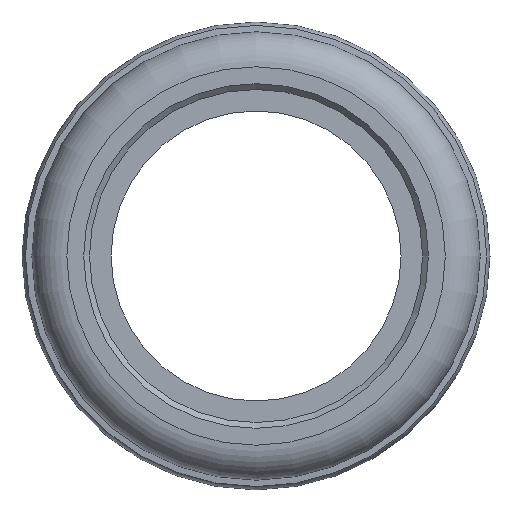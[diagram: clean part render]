
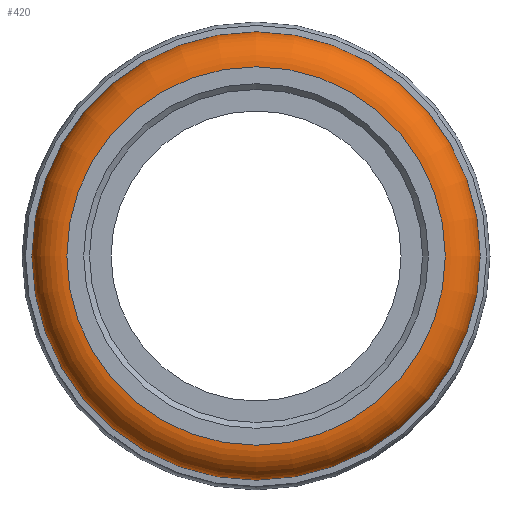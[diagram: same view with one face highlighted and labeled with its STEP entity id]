
A CAD part, left-side view. The second image highlights one B-rep face of the part: STEP entity #420.
In plain terms, the highlighted toroidal (fillet/blend) face has major radius 32.5 mm and minor radius 6 mm.
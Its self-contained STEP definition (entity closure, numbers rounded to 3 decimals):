
#45=FACE_BOUND($,#120,.T.);
#85=FACE_OUTER_BOUND($,#119,.T.);
#119=EDGE_LOOP($,(#304));
#120=EDGE_LOOP($,(#305));
#193=CIRCLE($,#461,38.5);
#194=CIRCLE($,#462,32.5);
#230=VERTEX_POINT($,#686);
#231=VERTEX_POINT($,#688);
#267=EDGE_CURVE($,#230,#230,#193,.T.);
#268=EDGE_CURVE($,#231,#231,#194,.T.);
#304=ORIENTED_EDGE($,*,*,#267,.F.);
#305=ORIENTED_EDGE($,*,*,#268,.T.);
#378=TOROIDAL_SURFACE($,#460,32.5,6.);
#420=ADVANCED_FACE($,(#85,#45),#378,.T.);
#460=AXIS2_PLACEMENT_3D($,#685,#536,#537);
#461=AXIS2_PLACEMENT_3D($,#687,#538,#539);
#462=AXIS2_PLACEMENT_3D($,#689,#540,#541);
#536=DIRECTION('center_axis',(1.,0.,0.));
#537=DIRECTION('ref_axis',(0.,0.,-1.));
#538=DIRECTION('center_axis',(1.,0.,0.));
#539=DIRECTION('ref_axis',(0.,1.,0.));
#540=DIRECTION('center_axis',(1.,0.,0.));
#541=DIRECTION('ref_axis',(0.,1.,0.));
#685=CARTESIAN_POINT('Origin',(6.,0.,0.));
#686=CARTESIAN_POINT('',(6.,38.5,0.));
#687=CARTESIAN_POINT('Origin',(6.,0.,0.));
#688=CARTESIAN_POINT('',(0.,32.5,0.));
#689=CARTESIAN_POINT('Origin',(0.,0.,0.));
